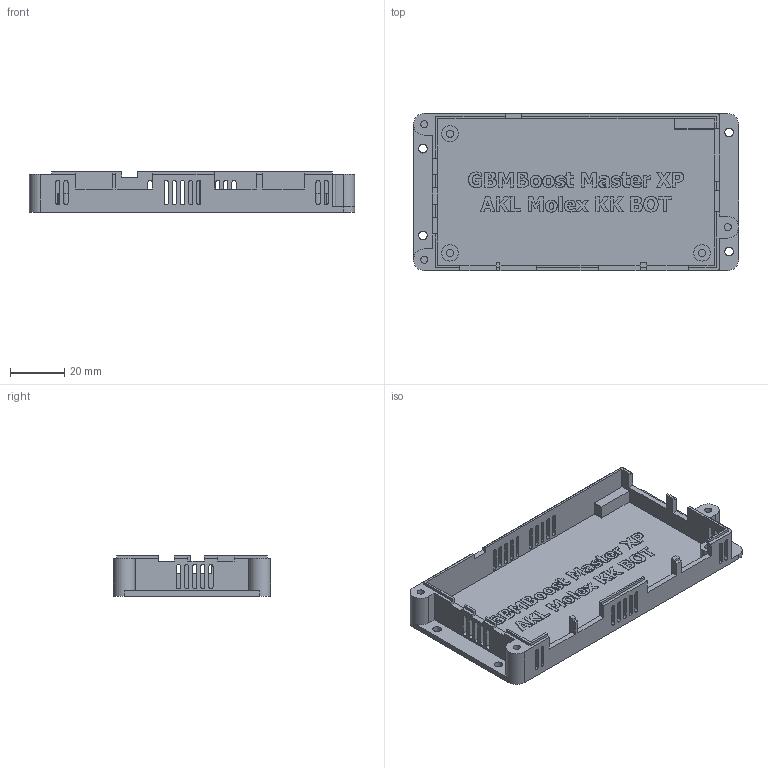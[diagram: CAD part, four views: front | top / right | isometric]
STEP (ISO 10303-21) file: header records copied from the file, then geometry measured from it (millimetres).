
FILE_DESCRIPTION(/* description */ (''),/* implementation_level */ '2;1');
FILE_NAME(/* name */ 'E:\Inventor-Dateien\GBMBoost_Master_XP_AKL_Molex_KK\GBMBoost_Master_XP_AKL_Molex_KK_BOT.stp',/* time_stamp */ '2022-02-07T18:21:38+01:00',/* author */ ('Hans'),/* organization */ (''),/* preprocessor_version */ 'ST-DEVELOPER v16.5',/* originating_system */ 'Autodesk Inventor 2017',/* authorisation */ '');
FILE_SCHEMA (('AUTOMOTIVE_DESIGN { 1 0 10303 214 3 1 1 }'));
Length unit declared in the file: millimetre
Products named in the file (1): GBMBoost_Master_AKL_Molex_DC-DC_BOT
Bounding box: 120 x 58 x 15 mm (x, y, z)
Volume: 22337.2 mm3; surface area: 23495.2 mm2
Topology: 1 solids, 1 shells, 699 faces, 1931 edges, 1287 vertices
Faces by surface type: plane 429, bspline 196, cylinder 74
Full cylindrical faces by diameter (mm): 2.6 x6, 3.2 x4, 6 x3
Entity records: 23207 total; most frequent: CARTESIAN_POINT 6453, ORIENTED_EDGE 3836, DIRECTION 2685, EDGE_CURVE 1918, LINE 1375, VECTOR 1375, VERTEX_POINT 1287, EDGE_LOOP 827
